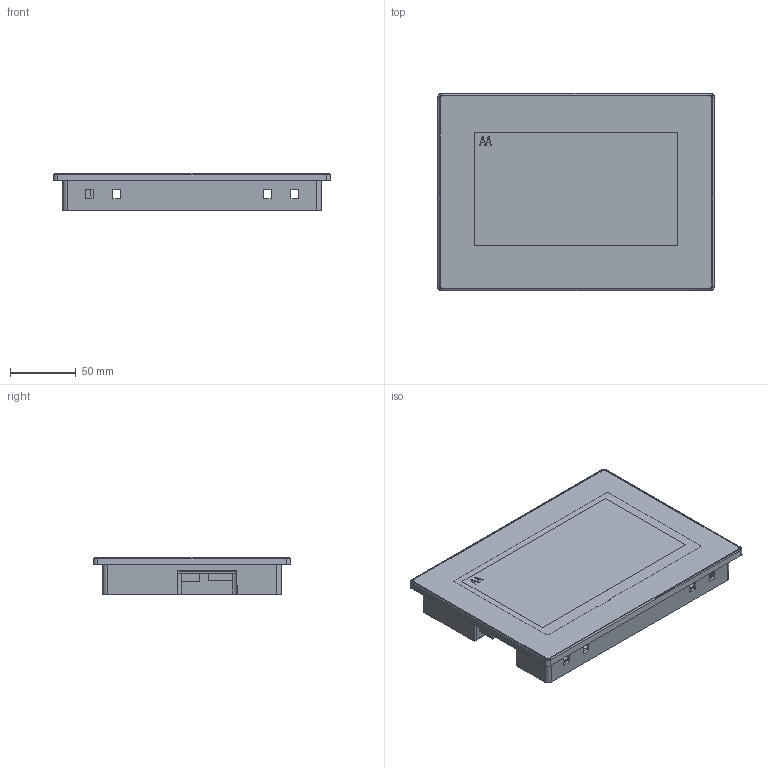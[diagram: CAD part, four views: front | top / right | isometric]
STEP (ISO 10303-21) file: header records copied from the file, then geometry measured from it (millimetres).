
FILE_DESCRIPTION(/* description */ (''),/* implementation_level */ '2;1');
FILE_NAME(/* name */ 'SDWb070S14.stp',/* time_stamp */ '2025-02-15T12:04:41+08:00',/* author */ (''),/* organization */ (''),/* preprocessor_version */ 'ST-DEVELOPER v16',/* originating_system */ 'SIEMENS PLM Software NX 10.0',/* authorisation */ '');
FILE_SCHEMA (('AP203_CONFIGURATION_CONTROLLED_3D_DESIGN_OF_MECHANICAL_PARTS_AND_ASSEMBLIES_MIM_LF { 1 0 10303 403 2 1 2}'));
Length unit declared in the file: millimetre
Products named in the file (1): SDWb070S14
Bounding box: 210 x 149.5 x 28.4 mm (x, y, z)
Volume: 182699.3 mm3; surface area: 261011.7 mm2
Topology: 10 solids, 10 shells, 824 faces, 2266 edges, 1488 vertices
Faces by surface type: plane 503, cone 210, cylinder 79, torus 16, bspline 12, extrusion 4
Full cylindrical faces by diameter (mm): 2.6 x6, 2.8 x2, 3.5 x2, 7.5 x6
Entity records: 27343 total; most frequent: CARTESIAN_POINT 5528, ORIENTED_EDGE 4498, DIRECTION 4359, EDGE_CURVE 2249, VECTOR 1557, LINE 1553, VERTEX_POINT 1488, AXIS2_PLACEMENT_3D 1401
